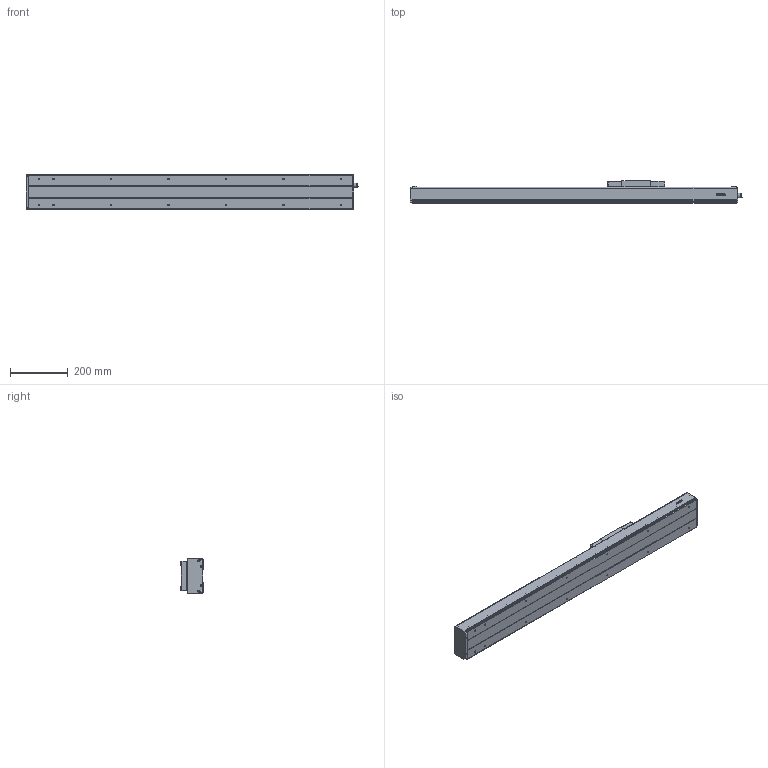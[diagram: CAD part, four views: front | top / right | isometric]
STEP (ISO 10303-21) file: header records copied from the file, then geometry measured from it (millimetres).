
FILE_DESCRIPTION(/* description */ (''),/* implementation_level */ '2;1');
FILE_NAME(/* name */ 'D:\混合母檔20191031\混和母檔\混和母檔\bin\Debug\Download\3D\KS120-20C-650AFI\KS120-20C-650AFI.stp',/* time_stamp */ '2019-11-04T15:25:15+08:00',/* author */ ('user'),/* organization */ (''),/* preprocessor_version */ 'ST-DEVELOPER v16.13',/* originating_system */ 'Autodesk Inventor 2018',/* authorisation */ '');
FILE_SCHEMA (('AUTOMOTIVE_DESIGN { 1 0 10303 214 3 1 1 }'));
Length unit declared in the file: millimetre
Products named in the file (3): KS120-20C-650AFI; KS120-FI; KS120-SL
Assembly tree (2 placements, depth 2):
  KS120-20C-650AFI
    KS120-FI
    KS120-SL
Bounding box: 1154.5 x 77 x 120 mm (x, y, z)
Volume: 2756957.8 mm3; surface area: 908936.4 mm2
Topology: 4 solids, 11 shells, 999 faces, 2567 edges, 1658 vertices
Faces by surface type: plane 575, cylinder 188, bspline 136, cone 82, torus 14, sphere 4
Full cylindrical faces by diameter (mm): 2.459 x6, 3.242 x4, 4 x32, 4.3 x4, 4.5 x12, 4.917 x14, 6 x6, 7 x4, 8 x9, 8.4 x12, 10.437 x1, 12 x2, 14 x1, 15 x1, 15.538 x1, 19 x1, 28 x1, 30 x1
Entity records: 33105 total; most frequent: CARTESIAN_POINT 10630, ORIENTED_EDGE 4570, DIRECTION 4185, EDGE_CURVE 2283, VERTEX_POINT 1574, LINE 1533, VECTOR 1533, AXIS2_PLACEMENT_3D 1326
